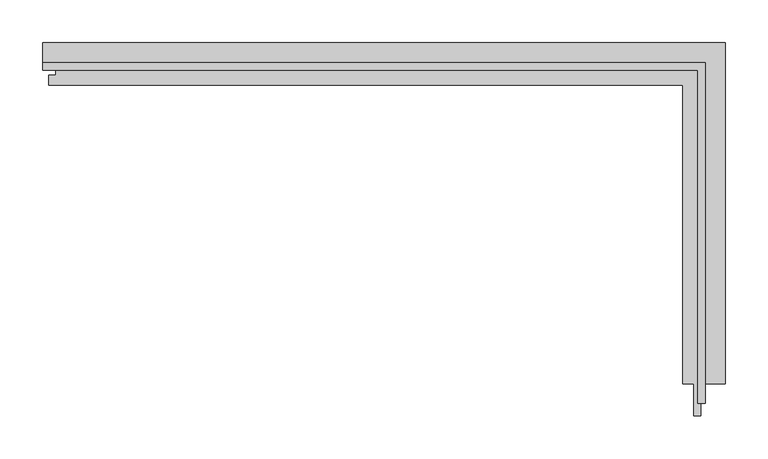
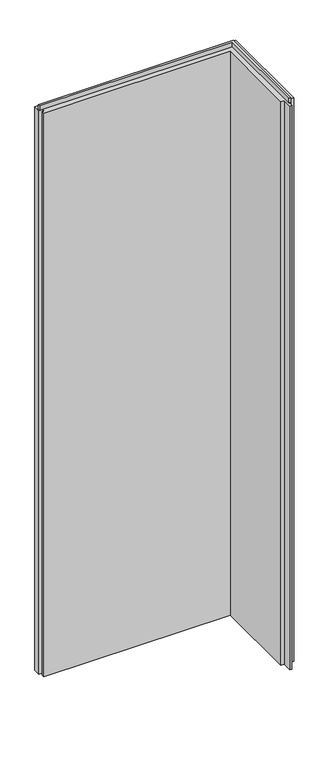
"""IFC4 building model written with IfcOpenShell, lengths in millimetres: plate geometry, Trimo_Qbiss Screen_L Corner Panel-VERTICAL : HR - B."""

from ifc_helpers import new_model, si_unit, frame, origin, place, context, project, spatial, polyline, outline, extrude, source, transform, mapped, element, save


def plate_bf577728(model_context):
    return source(origin(), model_context, "Body", "SweptSolid", [
        extrude(outline(polyline([(-337.0, 93.9), (-337.0, 102.6), (439.6, 102.6), (439.6, -297.0), (430.9, -297.0), (430.9, 93.9), (-337.0, 93.9)])), frame((0.0, 0.0, 2390.5), z_axis=(0.0, 0.0, 1.0), x_axis=(1.0, 0.0, 0.0)), (0.0, 0.0, 1.0), 19.0),
        extrude(outline(polyline([(463.0, -274.0), (434.0, -274.0), (434.0, -311.5), (426.0, -311.5), (426.0, -274.0), (413.0, -274.0), (413.0, 76.0), (-330.0, 76.0), (-330.0, 88.0), (-321.5, 88.0), (-321.5, 98.0), (-337.0, 98.0), (-337.0, 126.0), (463.0, 126.0), (463.0, -274.0)])), frame((0.0, 0.0, 12.5), z_axis=(0.0, 0.0, 1.0), x_axis=(1.0, 0.0, 0.0)), (0.0, 0.0, 1.0), 2375.0),
        extrude(outline(polyline([(439.6, -296.0), (434.0, -296.0), (434.0, -275.0), (439.6, -275.0), (439.6, -296.0)])), frame((0.0, 0.0, 12.5), z_axis=(0.0, 0.0, 1.0), x_axis=(1.0, 0.0, 0.0)), (0.0, 0.0, 1.0), 2375.0),
    ])


if __name__ == "__main__":
    model = new_model("IFC4")
    model_context = context("Model", 3, world=origin())
    ifc_project = project(units=[si_unit("LENGTHUNIT", "METRE", prefix="MILLI")], contexts=[model_context])
    site = spatial("IfcSite", under=ifc_project)
    building = spatial("IfcBuilding", under=site)
    placement = place(None, origin())
    plate_shape = plate_bf577728(model_context)
    element("IfcPlate", 1, ObjectType="Trimo_Qbiss Screen_L Corner Panel-VERTICAL : HR - B", at=placement, inside=building, context=model_context, shape_type="MappedRepresentation", body=[
        mapped(plate_shape, transform((0.0, 0.0, 0.0), x_axis=(1.0, 0.0, 0.0), y_axis=(0.0, 1.0, 0.0), z_axis=(0.0, 0.0, 1.0))),
    ])
    save(model, "model.ifc")
